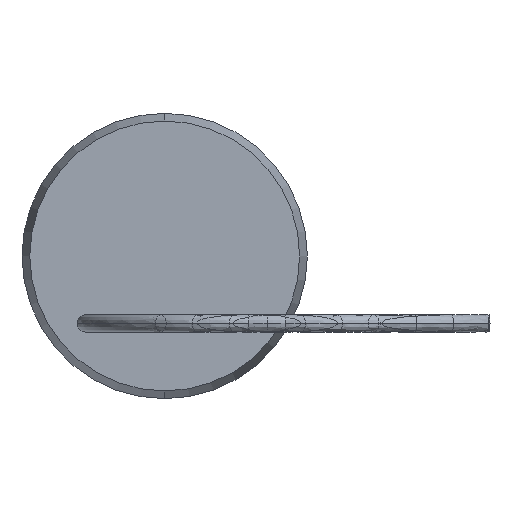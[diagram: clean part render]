
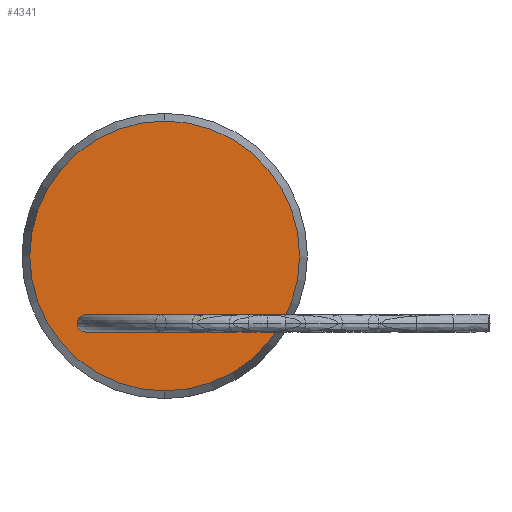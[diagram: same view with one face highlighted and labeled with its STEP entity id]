
A CAD part, left-side view. The second image highlights one B-rep face of the part: STEP entity #4341.
In plain terms, the highlighted planar face has unit normal (-1, 0, 0).
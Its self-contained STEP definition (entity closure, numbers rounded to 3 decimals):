
#81 = CIRCLE ( 'NONE', #82, 0.6 ) ;
#82 = AXIS2_PLACEMENT_3D ( 'NONE', #83, #84, #85 ) ;
#83 = CARTESIAN_POINT ( 'NONE',  ( 0., -2.54, -4.65 ) ) ;
#84 = DIRECTION ( 'NONE',  ( 1., 0., 0. ) ) ;
#85 = DIRECTION ( 'NONE',  ( 0., 0., 1. ) ) ;
#532 = CIRCLE ( 'NONE', #533, 9.314 ) ;
#533 = AXIS2_PLACEMENT_3D ( 'NONE', #534, #535, #536 ) ;
#534 = CARTESIAN_POINT ( 'NONE',  ( 0., 0., 0. ) ) ;
#535 = DIRECTION ( 'NONE',  ( 1., 0., 0. ) ) ;
#536 = DIRECTION ( 'NONE',  ( 0., 0., -1. ) ) ;
#1187 = CIRCLE ( 'NONE', #1188, 0.6 ) ;
#1188 = AXIS2_PLACEMENT_3D ( 'NONE', #1189, #1190, #1193 ) ;
#1189 = CARTESIAN_POINT ( 'NONE',  ( 0., 2.54, -4.65 ) ) ;
#1190 = DIRECTION ( 'NONE',  ( -1., 0., 0. ) ) ;
#1193 = DIRECTION ( 'NONE',  ( 0., 0., 1. ) ) ;
#1348 = CIRCLE ( 'NONE', #1349, 0.6 ) ;
#1349 = AXIS2_PLACEMENT_3D ( 'NONE', #1350, #1351, #1352 ) ;
#1350 = CARTESIAN_POINT ( 'NONE',  ( 0., 0., -4.65 ) ) ;
#1351 = DIRECTION ( 'NONE',  ( -1., 0., 0. ) ) ;
#1352 = DIRECTION ( 'NONE',  ( 0., 0., 1. ) ) ;
#1382 = CARTESIAN_POINT ( 'NONE',  ( 0., 0., -4.05 ) ) ;
#2045 = CARTESIAN_POINT ( 'NONE',  ( 0., 0., 9.314 ) ) ;
#2097 = CIRCLE ( 'NONE', #2098, 0.6 ) ;
#2098 = AXIS2_PLACEMENT_3D ( 'NONE', #2099, #2103, #2104 ) ;
#2099 = CARTESIAN_POINT ( 'NONE',  ( 0., -2.54, -4.65 ) ) ;
#2103 = DIRECTION ( 'NONE',  ( 1., 0., 0. ) ) ;
#2104 = DIRECTION ( 'NONE',  ( 0., 0., 1. ) ) ;
#2207 = CIRCLE ( 'NONE', #2208, 9.314 ) ;
#2208 = AXIS2_PLACEMENT_3D ( 'NONE', #2209, #2210, #2211 ) ;
#2209 = CARTESIAN_POINT ( 'NONE',  ( 0., 0., 0. ) ) ;
#2210 = DIRECTION ( 'NONE',  ( 1., 0., 0. ) ) ;
#2211 = DIRECTION ( 'NONE',  ( 0., 0., -1. ) ) ;
#2327 = FACE_BOUND ( 'NONE', #4391, .T. ) ;
#2328 = FACE_BOUND ( 'NONE', #4612, .T. ) ;
#2329 = FACE_BOUND ( 'NONE', #5920, .T. ) ;
#2330 = FACE_OUTER_BOUND ( 'NONE', #7427, .T. ) ;
#2331 = PLANE ( 'NONE',  #2332 ) ;
#2332 = AXIS2_PLACEMENT_3D ( 'NONE', #2333, #2335, #2336 ) ;
#2333 = CARTESIAN_POINT ( 'NONE',  ( 0., 9.687, 9.687 ) ) ;
#2335 = DIRECTION ( 'NONE',  ( 1., 0., 0. ) ) ;
#2336 = DIRECTION ( 'NONE',  ( 0., -1., 0. ) ) ;
#2348 = CIRCLE ( 'NONE', #2349, 0.6 ) ;
#2349 = AXIS2_PLACEMENT_3D ( 'NONE', #2350, #2352, #2353 ) ;
#2350 = CARTESIAN_POINT ( 'NONE',  ( 0., 0., -4.65 ) ) ;
#2352 = DIRECTION ( 'NONE',  ( -1., 0., 0. ) ) ;
#2353 = DIRECTION ( 'NONE',  ( 0., 0., 1. ) ) ;
#2482 = CARTESIAN_POINT ( 'NONE',  ( 0., 0., -9.314 ) ) ;
#2723 = CARTESIAN_POINT ( 'NONE',  ( 0., 2.54, -4.05 ) ) ;
#2862 = CARTESIAN_POINT ( 'NONE',  ( 0., 2.54, -5.25 ) ) ;
#3444 = VERTEX_POINT ( 'NONE', #7254 ) ;
#3501 = VERTEX_POINT ( 'NONE', #7311 ) ;
#3911 = EDGE_CURVE ( 'NONE', #6609, #7123, #532, .T. ) ;
#4341 = ADVANCED_FACE ( 'NONE', ( #2327, #2328, #2329, #2330 ), #2331, .F. ) ;
#4391 = EDGE_LOOP ( 'NONE', ( #4473, #4564 ) ) ;
#4473 = ORIENTED_EDGE ( 'NONE', *, *, #5439, .F. ) ;
#4553 = EDGE_CURVE ( 'NONE', #3444, #3501, #81, .T. ) ;
#4564 = ORIENTED_EDGE ( 'NONE', *, *, #4760, .F. ) ;
#4612 = EDGE_LOOP ( 'NONE', ( #4692, #5757 ) ) ;
#4692 = ORIENTED_EDGE ( 'NONE', *, *, #5589, .F. ) ;
#4760 = EDGE_CURVE ( 'NONE', #7465, #7295, #6058, .T. ) ;
#5100 = VERTEX_POINT ( 'NONE', #7539 ) ;
#5439 = EDGE_CURVE ( 'NONE', #7295, #7465, #1187, .T. ) ;
#5589 = EDGE_CURVE ( 'NONE', #5736, #5100, #1348, .T. ) ;
#5736 = VERTEX_POINT ( 'NONE', #1382 ) ;
#5757 = ORIENTED_EDGE ( 'NONE', *, *, #7049, .F. ) ;
#5920 = EDGE_LOOP ( 'NONE', ( #6368, #7181 ) ) ;
#6058 = CIRCLE ( 'NONE', #6059, 0.6 ) ;
#6059 = AXIS2_PLACEMENT_3D ( 'NONE', #6060, #6061, #6062 ) ;
#6060 = CARTESIAN_POINT ( 'NONE',  ( 0., 2.54, -4.65 ) ) ;
#6061 = DIRECTION ( 'NONE',  ( -1., 0., 0. ) ) ;
#6062 = DIRECTION ( 'NONE',  ( 0., 0., 1. ) ) ;
#6368 = ORIENTED_EDGE ( 'NONE', *, *, #6705, .T. ) ;
#6609 = VERTEX_POINT ( 'NONE', #2045 ) ;
#6705 = EDGE_CURVE ( 'NONE', #3501, #3444, #2097, .T. ) ;
#6900 = EDGE_CURVE ( 'NONE', #7123, #6609, #2207, .T. ) ;
#7049 = EDGE_CURVE ( 'NONE', #5100, #5736, #2348, .T. ) ;
#7123 = VERTEX_POINT ( 'NONE', #2482 ) ;
#7181 = ORIENTED_EDGE ( 'NONE', *, *, #4553, .T. ) ;
#7254 = CARTESIAN_POINT ( 'NONE',  ( 0., -2.54, -5.25 ) ) ;
#7295 = VERTEX_POINT ( 'NONE', #2723 ) ;
#7311 = CARTESIAN_POINT ( 'NONE',  ( 0., -2.54, -4.05 ) ) ;
#7427 = EDGE_LOOP ( 'NONE', ( #7875, #8180 ) ) ;
#7465 = VERTEX_POINT ( 'NONE', #2862 ) ;
#7539 = CARTESIAN_POINT ( 'NONE',  ( 0., 0., -5.25 ) ) ;
#7875 = ORIENTED_EDGE ( 'NONE', *, *, #6900, .F. ) ;
#8180 = ORIENTED_EDGE ( 'NONE', *, *, #3911, .F. ) ;
